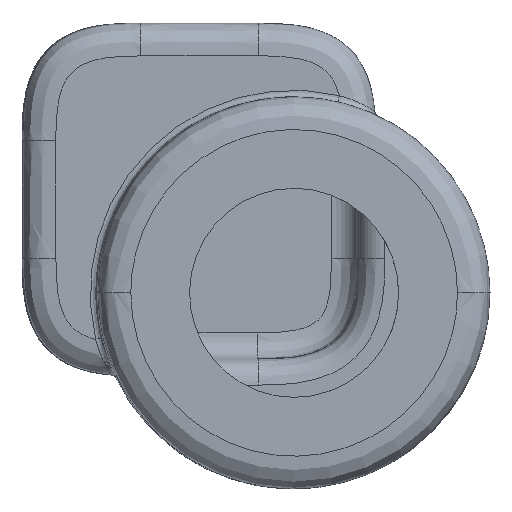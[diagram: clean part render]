
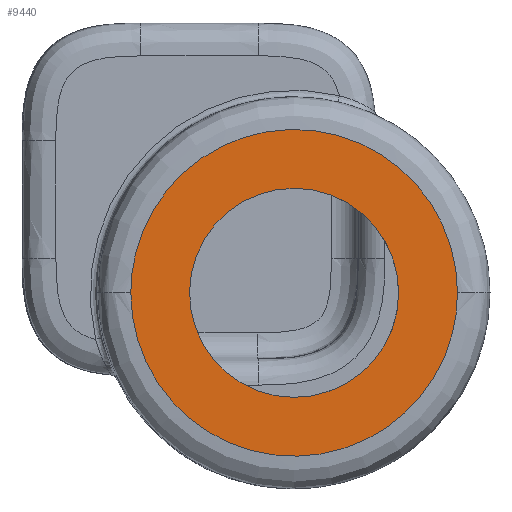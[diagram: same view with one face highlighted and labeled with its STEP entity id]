
A CAD part, front view. The second image highlights one B-rep face of the part: STEP entity #9440.
In plain terms, the highlighted planar face has unit normal (0.005, -1, 0).
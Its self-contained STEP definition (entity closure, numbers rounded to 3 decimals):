
#47 = DIRECTION ( 'NONE',  ( -0.005, 1., 0. ) ) ;
#73 = EDGE_CURVE ( 'NONE', #2281, #5754, #3664, .T. ) ;
#255 = EDGE_LOOP ( 'NONE', ( #1732, #9163 ) ) ;
#297 = CARTESIAN_POINT ( 'NONE',  ( -2491.402, -0.716, -206.361 ) ) ;
#598 = CARTESIAN_POINT ( 'NONE',  ( -2475.065, -0.638, -82.162 ) ) ;
#641 = CARTESIAN_POINT ( 'NONE',  ( -2499.609, -0.755, -331.361 ) ) ;
#671 = CARTESIAN_POINT ( 'NONE',  ( -2599.894, -1.235, -143.739 ) ) ;
#674 = EDGE_CURVE ( 'NONE', #6728, #6663, #5447, .T. ) ;
#716 = CARTESIAN_POINT ( 'NONE',  ( -2585.593, -1.167, -288.946 ) ) ;
#965 = CARTESIAN_POINT ( 'NONE',  ( -2379.059, -0.179, -261.779 ) ) ;
#1180 = DIRECTION ( 'NONE',  ( -0.005, 1., 0. ) ) ;
#1287 = CARTESIAN_POINT ( 'NONE',  ( -2366.404, -0.119, -206.361 ) ) ;
#1376 = CARTESIAN_POINT ( 'NONE',  ( -2603.745, -1.253, -261.779 ) ) ;
#1405 = CARTESIAN_POINT ( 'NONE',  ( -2615.6, -1.31, -190.024 ) ) ;
#1438 = CARTESIAN_POINT ( 'NONE',  ( -2435.985, -0.451, -94.017 ) ) ;
#1483 = CARTESIAN_POINT ( 'NONE',  ( -2475.065, -0.638, -330.56 ) ) ;
#1512 = CARTESIAN_POINT ( 'NONE',  ( -2567.672, -1.081, -106.987 ) ) ;
#1537 = FACE_OUTER_BOUND ( 'NONE', #255, .T. ) ;
#1649 = CARTESIAN_POINT ( 'NONE',  ( -2428.781, -0.417, -314.854 ) ) ;
#1732 = ORIENTED_EDGE ( 'NONE', *, *, #8065, .T. ) ;
#2023 = CARTESIAN_POINT ( 'NONE',  ( -2366.404, -0.119, -206.361 ) ) ;
#2281 = VERTEX_POINT ( 'NONE', #8596 ) ;
#2301 = CARTESIAN_POINT ( 'NONE',  ( -2397.212, -0.266, -123.776 ) ) ;
#2329 = CARTESIAN_POINT ( 'NONE',  ( -2616.401, -1.314, -206.361 ) ) ;
#2640 = CARTESIAN_POINT ( 'NONE',  ( -2397.212, -0.266, -288.946 ) ) ;
#2688 = CARTESIAN_POINT ( 'NONE',  ( -2491.402, -0.716, -206.361 ) ) ;
#2905 = CARTESIAN_POINT ( 'NONE',  ( -2616.401, -1.314, -214.568 ) ) ;
#3050 = CARTESIAN_POINT ( 'NONE',  ( -2408.818, -0.321, -112.169 ) ) ;
#3088 = CARTESIAN_POINT ( 'NONE',  ( -2392.029, -0.241, -130.091 ) ) ;
#3097 = CARTESIAN_POINT ( 'NONE',  ( -2573.986, -1.111, -300.553 ) ) ;
#3127 = CARTESIAN_POINT ( 'NONE',  ( -2573.986, -1.111, -112.17 ) ) ;
#3163 = CARTESIAN_POINT ( 'NONE',  ( -2428.781, -0.417, -97.868 ) ) ;
#3200 = CARTESIAN_POINT ( 'NONE',  ( -2458.967, -0.561, -327.358 ) ) ;
#3202 = AXIS2_PLACEMENT_3D ( 'NONE', #2688, #8453, #8488 ) ;
#3336 = PLANE ( 'NONE',  #7712 ) ;
#3444 = CARTESIAN_POINT ( 'NONE',  ( -2392.029, -0.241, -282.631 ) ) ;
#3544 = CARTESIAN_POINT ( 'NONE',  ( -2421.775, -0.383, -166.967 ) ) ;
#3546 = CARTESIAN_POINT ( 'NONE',  ( -2415.133, -0.352, -305.735 ) ) ;
#3664 = B_SPLINE_CURVE_WITH_KNOTS ( 'NONE', 3,
 ( #8747, #2905, #8674, #3826, #6306, #1376, #9731, #8175, #716, #3097, #8863, #4773, #3938, #10534, #8999, #5598, #641, #6415, #1483, #3200, #7226, #7458, #1649, #3546, #7534, #2640, #3444, #7603, #965, #9313, #4356, #8513, #9208, #10295 ),
 .UNSPECIFIED., .F., .F.,
 ( 4, 2, 2, 2, 2, 2, 2, 2, 2, 2, 2, 2, 2, 2, 2, 2, 4 ),
 ( 0.5, 0.531, 0.563, 0.594, 0.625, 0.656, 0.688, 0.719, 0.75, 0.781, 0.813, 0.844, 0.875, 0.906, 0.938, 0.969, 1. ),
 .UNSPECIFIED. ) ;
#3782 = CARTESIAN_POINT ( 'NONE',  ( -2367.204, -0.122, -190.024 ) ) ;
#3817 = CARTESIAN_POINT ( 'NONE',  ( -2372.778, -0.149, -166.108 ) ) ;
#3826 = CARTESIAN_POINT ( 'NONE',  ( -2612.398, -1.295, -238.797 ) ) ;
#3894 = CARTESIAN_POINT ( 'NONE',  ( -2612.398, -1.295, -173.925 ) ) ;
#3938 = CARTESIAN_POINT ( 'NONE',  ( -2546.819, -0.981, -318.705 ) ) ;
#4005 = CARTESIAN_POINT ( 'NONE',  ( -2590.775, -1.191, -130.091 ) ) ;
#4356 = CARTESIAN_POINT ( 'NONE',  ( -2370.407, -0.138, -238.797 ) ) ;
#4618 = CARTESIAN_POINT ( 'NONE',  ( -2366.404, -0.119, -198.154 ) ) ;
#4773 = CARTESIAN_POINT ( 'NONE',  ( -2554.024, -1.016, -314.855 ) ) ;
#4798 = CARTESIAN_POINT ( 'NONE',  ( -2415.133, -0.352, -106.987 ) ) ;
#4803 = DIRECTION ( 'NONE',  ( 1., 0.005, 0. ) ) ;
#5447 = CIRCLE ( 'NONE', #3202, 80. ) ;
#5523 = CARTESIAN_POINT ( 'NONE',  ( -2610.026, -1.283, -166.108 ) ) ;
#5560 = CARTESIAN_POINT ( 'NONE',  ( -2554.024, -1.016, -97.868 ) ) ;
#5598 = CARTESIAN_POINT ( 'NONE',  ( -2507.739, -0.794, -330.561 ) ) ;
#5754 = VERTEX_POINT ( 'NONE', #2023 ) ;
#6185 = DIRECTION ( 'NONE',  ( 0.87, 0.004, 0.492 ) ) ;
#6306 = CARTESIAN_POINT ( 'NONE',  ( -2610.026, -1.283, -246.614 ) ) ;
#6338 = CARTESIAN_POINT ( 'NONE',  ( -2483.195, -0.677, -81.361 ) ) ;
#6365 = ORIENTED_EDGE ( 'NONE', *, *, #674, .T. ) ;
#6407 = CARTESIAN_POINT ( 'NONE',  ( -2507.739, -0.794, -82.162 ) ) ;
#6415 = CARTESIAN_POINT ( 'NONE',  ( -2483.195, -0.677, -331.361 ) ) ;
#6445 = CARTESIAN_POINT ( 'NONE',  ( -2451.15, -0.524, -87.735 ) ) ;
#6486 = EDGE_LOOP ( 'NONE', ( #6365, #10267 ) ) ;
#6663 = VERTEX_POINT ( 'NONE', #3544 ) ;
#6728 = VERTEX_POINT ( 'NONE', #7674 ) ;
#7181 = CARTESIAN_POINT ( 'NONE',  ( -2603.745, -1.253, -150.943 ) ) ;
#7226 = CARTESIAN_POINT ( 'NONE',  ( -2451.15, -0.524, -324.987 ) ) ;
#7364 = AXIS2_PLACEMENT_3D ( 'NONE', #297, #1180, #6185 ) ;
#7428 = CARTESIAN_POINT ( 'NONE',  ( -2491.402, -0.716, -206.361 ) ) ;
#7458 = CARTESIAN_POINT ( 'NONE',  ( -2435.985, -0.451, -318.705 ) ) ;
#7534 = CARTESIAN_POINT ( 'NONE',  ( -2408.818, -0.321, -300.553 ) ) ;
#7603 = CARTESIAN_POINT ( 'NONE',  ( -2382.91, -0.197, -268.984 ) ) ;
#7674 = CARTESIAN_POINT ( 'NONE',  ( -2561.03, -1.049, -245.755 ) ) ;
#7712 = AXIS2_PLACEMENT_3D ( 'NONE', #7428, #47, #4803 ) ;
#7988 = CARTESIAN_POINT ( 'NONE',  ( -2531.655, -0.909, -87.736 ) ) ;
#8024 = CARTESIAN_POINT ( 'NONE',  ( -2616.401, -1.314, -198.154 ) ) ;
#8062 = CARTESIAN_POINT ( 'NONE',  ( -2499.609, -0.755, -81.361 ) ) ;
#8065 = EDGE_CURVE ( 'NONE', #5754, #2281, #10388, .T. ) ;
#8110 = FACE_BOUND ( 'NONE', #6486, .T. ) ;
#8175 = CARTESIAN_POINT ( 'NONE',  ( -2590.775, -1.191, -282.631 ) ) ;
#8453 = DIRECTION ( 'NONE',  ( -0.005, 1., 0. ) ) ;
#8488 = DIRECTION ( 'NONE',  ( 0.87, 0.004, 0.492 ) ) ;
#8513 = CARTESIAN_POINT ( 'NONE',  ( -2367.204, -0.122, -222.698 ) ) ;
#8596 = CARTESIAN_POINT ( 'NONE',  ( -2616.401, -1.314, -206.361 ) ) ;
#8674 = CARTESIAN_POINT ( 'NONE',  ( -2615.6, -1.31, -222.698 ) ) ;
#8747 = CARTESIAN_POINT ( 'NONE',  ( -2616.401, -1.314, -206.361 ) ) ;
#8777 = CARTESIAN_POINT ( 'NONE',  ( -2458.967, -0.561, -85.364 ) ) ;
#8855 = CARTESIAN_POINT ( 'NONE',  ( -2382.91, -0.197, -143.739 ) ) ;
#8863 = CARTESIAN_POINT ( 'NONE',  ( -2567.671, -1.081, -305.735 ) ) ;
#8999 = CARTESIAN_POINT ( 'NONE',  ( -2523.837, -0.871, -327.358 ) ) ;
#9163 = ORIENTED_EDGE ( 'NONE', *, *, #73, .T. ) ;
#9208 = CARTESIAN_POINT ( 'NONE',  ( -2366.404, -0.119, -214.569 ) ) ;
#9313 = CARTESIAN_POINT ( 'NONE',  ( -2372.778, -0.149, -246.614 ) ) ;
#9440 = ADVANCED_FACE ( 'NONE', ( #8110, #1537 ), #3336, .F. ) ;
#9547 = EDGE_CURVE ( 'NONE', #6663, #6728, #10025, .T. ) ;
#9685 = CARTESIAN_POINT ( 'NONE',  ( -2523.837, -0.871, -85.364 ) ) ;
#9731 = CARTESIAN_POINT ( 'NONE',  ( -2599.894, -1.235, -268.983 ) ) ;
#10025 = CIRCLE ( 'NONE', #7364, 80. ) ;
#10267 = ORIENTED_EDGE ( 'NONE', *, *, #9547, .T. ) ;
#10295 = CARTESIAN_POINT ( 'NONE',  ( -2366.404, -0.119, -206.361 ) ) ;
#10376 = CARTESIAN_POINT ( 'NONE',  ( -2370.406, -0.138, -173.925 ) ) ;
#10388 = B_SPLINE_CURVE_WITH_KNOTS ( 'NONE', 3,
 ( #1287, #4618, #3782, #10376, #3817, #10526, #8855, #3088, #2301, #3050, #4798, #3163, #1438, #6445, #8777, #598, #6338, #8062, #6407, #9685, #7988, #10489, #5560, #1512, #3127, #10452, #4005, #671, #7181, #5523, #3894, #1405, #8024, #2329 ),
 .UNSPECIFIED., .F., .F.,
 ( 4, 2, 2, 2, 2, 2, 2, 2, 2, 2, 2, 2, 2, 2, 2, 2, 4 ),
 ( 0., 0.031, 0.063, 0.094, 0.125, 0.156, 0.188, 0.219, 0.25, 0.281, 0.313, 0.344, 0.375, 0.406, 0.438, 0.469, 0.5 ),
 .UNSPECIFIED. ) ;
#10452 = CARTESIAN_POINT ( 'NONE',  ( -2585.593, -1.167, -123.776 ) ) ;
#10489 = CARTESIAN_POINT ( 'NONE',  ( -2546.819, -0.981, -94.017 ) ) ;
#10526 = CARTESIAN_POINT ( 'NONE',  ( -2379.059, -0.179, -150.943 ) ) ;
#10534 = CARTESIAN_POINT ( 'NONE',  ( -2531.655, -0.909, -324.987 ) ) ;
